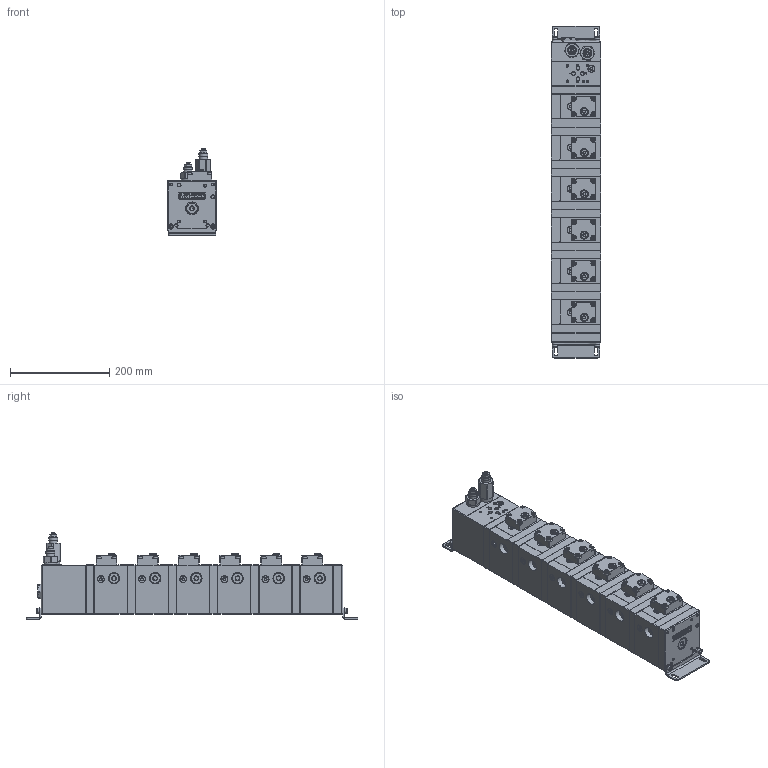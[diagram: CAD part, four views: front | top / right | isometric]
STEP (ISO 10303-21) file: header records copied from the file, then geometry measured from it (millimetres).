
FILE_DESCRIPTION(/* description */ ('Unknown'),/* implementation_level */ '2;1');
FILE_NAME(/* name */ 'MVE06_23',/* time_stamp */ '2017-07-10T10:20:49+02:00',/* author */ ('Unknown'),/* organization */ ('Unknown'),/* preprocessor_version */ 'ST-DEVELOPER v16.7',/* originating_system */ 'DEX',/* authorisation */ $);
FILE_SCHEMA (('AUTOMOTIVE_DESIGN {1 0 10303 214 3 1 1}'));
Products named in the file (1): MVE06_23
Bounding box: 100 x 669.5 x 175 mm (x, y, z)
Volume: 6262922.1 mm3; surface area: 375279.1 mm2
Topology: 1 solids, 79 shells, 2749 faces, 6601 edges, 4203 vertices
Faces by surface type: plane 1737, cylinder 508, cone 329, bspline 132, torus 43
Full cylindrical faces by diameter (mm): 4 x7, 4.134 x56, 4.917 x14, 6.5 x28, 6.647 x4, 8 x3, 8.5 x24, 10 x4, 13 x4, 13.5 x4, 14 x20, 14.2 x14, 14.95 x24, 15.5 x6, 17 x2, 18 x2, 18.631 x4, 19 x2, 19.5 x1, 22 x7, 23 x6, 25 x12, 25.4 x1, 26.5 x3, 28 x2, 30 x2, 30.5 x1
Entity records: 112376 total; most frequent: CARTESIAN_POINT 34714, ORIENTED_EDGE 11466, DIRECTION 11407, EDGE_CURVE 5733, AXIS2_PLACEMENT_3D 4116, VERTEX_POINT 3933, FACE_BOUND 3596, EDGE_LOOP 3505
